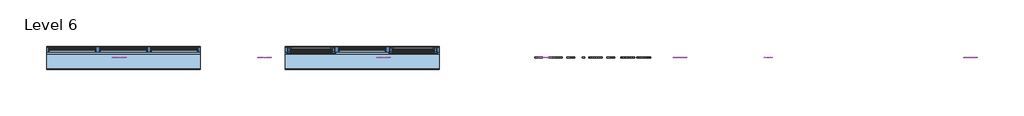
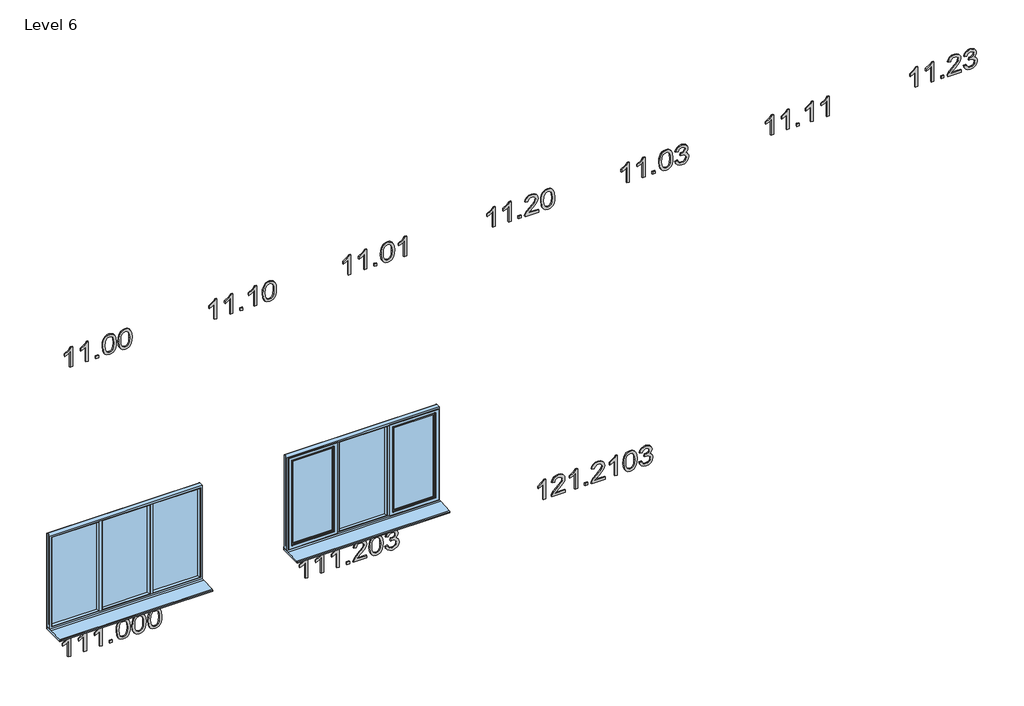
# One storey, incomplete: 10 proxies, 2 windows.
"""IFC4 building model written with IfcOpenShell, lengths in millimetres."""

from ifc_helpers import new_model, si_unit, frame, origin, place, context, project, spatial, polyline, outline, extrude, transform, mapped, element, save
from components import standard_2_dcb44ffc, standard_2_6f74c63c

model = new_model("IFC4")

# Units and contexts
model_context = context("Model", 3, world=origin())
ifc_project = project(units=[si_unit("LENGTHUNIT", "METRE", prefix="MILLI")], contexts=[model_context])

# Site, building, storey
site = spatial("IfcSite", under=ifc_project)
building = spatial("IfcBuilding", under=site)
storey = spatial("IfcBuildingStorey", under=building, Name="Level 6", Elevation=15000.0)

# Proxies
placement = place(None, origin())
element("IfcBuildingElementProxy", 1, Name="200mm Arial", ObjectType="200mm Arial", at=placement, inside=storey, context=model_context, shape_type="SweptSolid", body=[
    extrude(outline(polyline([(17968.1392597, -171054.3903213), (18169.05188, -171054.3903213), (18169.05188, -171070.5771291), (18155.8939673, -171079.4492165), (18142.3191217, -171092.9198289), (18118.8237249, -171129.7325539), (18095.0830735, -171129.7325539), (18107.7627396, -171103.2941012), (18124.7098368, -171079.5043988), (17968.1392597, -171079.5043988), (17968.1392597, -171054.3903213)])), frame((0.0, 24202.6264647, 0.0), z_axis=(0.0, 1.0, 0.0), x_axis=(0.0, 0.0, 1.0)), (0.0, 0.0, 1.0), 10.0),
    extrude(outline(polyline([(17968.1392597, -170900.5665964), (18169.05188, -170900.5665964), (18169.05188, -170916.7534042), (18155.8939673, -170925.6254916), (18142.3191217, -170939.096104), (18118.8237249, -170975.908829), (18095.0830735, -170975.908829), (18107.7627396, -170949.4703763), (18124.7098368, -170925.6806739), (17968.1392597, -170925.6806739), (17968.1392597, -170900.5665964)])), frame((0.0, 24202.6264647, 0.0), z_axis=(0.0, 1.0, 0.0), x_axis=(0.0, 0.0, 1.0)), (0.0, 0.0, 1.0), 10.0),
    extrude(outline(polyline([(-170803.2495459, 24202.6264647), (-170828.3636235, 24202.6264647), (-170828.3636235, 24212.6264647), (-170803.2495459, 24212.6264647), (-170803.2495459, 24202.6264647)])), frame((0.0, 0.0, 17968.1392597), z_axis=(0.0, 0.0, 1.0), x_axis=(1.0, 0.0, 0.0)), (0.0, 0.0, 1.0), 25.1140775),
    extrude(outline(polyline([(18066.9768891, -170762.4391699), (18018.1098974, -170757.4359748), (17999.2590108, -170751.1819809), (17984.1298637, -170742.4263894), (17969.7824659, -170722.6098126), (17965.0, -170696.5147164), (17967.7529836, -170676.2137616), (17976.0119344, -170659.7510423), (17989.8688229, -170647.0161939), (18009.4156196, -170637.8988518), (18035.0018123, -170632.4174101), (18066.9768891, -170630.5902629), (18114.1884118, -170635.1519996), (18143.913277, -170646.9242234), (18154.6738253, -170655.5939758), (18162.5771569, -170667.1822587), (18167.4331992, -170681.0391471), (18169.05188, -170696.5147164), (18166.3172905, -170716.7053066), (18158.113522, -170733.1312377), (18144.3118158, -170745.8844802), (18124.7834132, -170755.0570046), (18099.1359068, -170760.5936286), (18066.9768891, -170762.4391699)]), holes=[polyline([(18067.02594, -170737.3250924), (18106.0214315, -170734.2839346), (18130.4978469, -170725.1604611), (18140.5778136, -170712.5298459), (18143.9378025, -170696.809022), (18140.1240924, -170680.2052813), (18128.6829624, -170667.0841568), (18105.6412868, -170658.5492945), (18067.02594, -170655.7043404), (18027.5828587, -170658.6473964), (18004.70673, -170667.4765642), (17993.7622407, -170680.6222142), (17990.1140775, -170696.5147164), (17993.7499779, -170712.4072186), (18004.6576791, -170725.5528686), (18027.5215451, -170734.3820364), (18067.02594, -170737.3250924)])]), frame((0.0, 24202.6264647, 0.0), z_axis=(0.0, 1.0, 0.0), x_axis=(0.0, 0.0, 1.0)), (0.0, 0.0, 1.0), 10.0),
    extrude(outline(polyline([(18066.9768891, -170608.615445), (18018.1098974, -170603.6122499), (17999.2590108, -170597.358256), (17984.1298637, -170588.6026645), (17969.7824659, -170568.7860877), (17965.0, -170542.6909915), (17967.7529836, -170522.3900367), (17976.0119344, -170505.9273174), (17989.8688229, -170493.192469), (18009.4156196, -170484.0751269), (18035.0018123, -170478.5936852), (18066.9768891, -170476.7665379), (18114.1884118, -170481.3282747), (18143.913277, -170493.1004985), (18154.6738253, -170501.7702509), (18162.5771569, -170513.3585337), (18167.4331992, -170527.2154222), (18169.05188, -170542.6909915), (18166.3172905, -170562.8815817), (18158.113522, -170579.3075127), (18144.3118158, -170592.0607552), (18124.7834132, -170601.2332796), (18099.1359068, -170606.7699037), (18066.9768891, -170608.615445)]), holes=[polyline([(18067.02594, -170583.5013675), (18106.0214315, -170580.4602097), (18130.4978469, -170571.3367362), (18140.5778136, -170558.706121), (18143.9378025, -170542.9852971), (18140.1240924, -170526.3815564), (18128.6829624, -170513.2604319), (18105.6412868, -170504.7255696), (18067.02594, -170501.8806155), (18027.5828587, -170504.8236714), (18004.70673, -170513.6528393), (17993.7622407, -170526.7984893), (17990.1140775, -170542.6909915), (17993.7499779, -170558.5834937), (18004.6576791, -170571.7291436), (18027.5215451, -170580.5583115), (18067.02594, -170583.5013675)])]), frame((0.0, 24202.6264647, 0.0), z_axis=(0.0, 1.0, 0.0), x_axis=(0.0, 0.0, 1.0)), (0.0, 0.0, 1.0), 10.0),
])
element("IfcBuildingElementProxy", 2, Name="200mm Arial", ObjectType="200mm Arial", at=placement, inside=storey, context=model_context, shape_type="SweptSolid", body=[
    extrude(outline(polyline([(17968.1392597, -169654.3903213), (18169.05188, -169654.3903213), (18169.05188, -169670.5771291), (18155.8939673, -169679.4492165), (18142.3191217, -169692.9198289), (18118.8237249, -169729.7325539), (18095.0830735, -169729.7325539), (18107.7627396, -169703.2941012), (18124.7098368, -169679.5043988), (17968.1392597, -169679.5043988), (17968.1392597, -169654.3903213)])), frame((0.0, 24202.6264647, 0.0), z_axis=(0.0, 1.0, 0.0), x_axis=(0.0, 0.0, 1.0)), (0.0, 0.0, 1.0), 10.0),
    extrude(outline(polyline([(17968.1392597, -169500.5665964), (18169.05188, -169500.5665964), (18169.05188, -169516.7534042), (18155.8939673, -169525.6254916), (18142.3191217, -169539.096104), (18118.8237249, -169575.908829), (18095.0830735, -169575.908829), (18107.7627396, -169549.4703763), (18124.7098368, -169525.6806739), (17968.1392597, -169525.6806739), (17968.1392597, -169500.5665964)])), frame((0.0, 24202.6264647, 0.0), z_axis=(0.0, 1.0, 0.0), x_axis=(0.0, 0.0, 1.0)), (0.0, 0.0, 1.0), 10.0),
    extrude(outline(polyline([(-169403.2495459, 24202.6264647), (-169428.3636235, 24202.6264647), (-169428.3636235, 24212.6264647), (-169403.2495459, 24212.6264647), (-169403.2495459, 24202.6264647)])), frame((0.0, 0.0, 17968.1392597), z_axis=(0.0, 0.0, 1.0), x_axis=(1.0, 0.0, 0.0)), (0.0, 0.0, 1.0), 25.1140775),
    extrude(outline(polyline([(17968.1392597, -169268.2613792), (18169.05188, -169268.2613792), (18169.05188, -169284.448187), (18155.8939673, -169293.3202744), (18142.3191217, -169306.7908868), (18118.8237249, -169343.6036118), (18095.0830735, -169343.6036118), (18107.7627396, -169317.1651591), (18124.7098368, -169293.3754567), (17968.1392597, -169293.3754567), (17968.1392597, -169268.2613792)])), frame((0.0, 24202.6264647, 0.0), z_axis=(0.0, 1.0, 0.0), x_axis=(0.0, 0.0, 1.0)), (0.0, 0.0, 1.0), 10.0),
    extrude(outline(polyline([(18066.9768891, -169208.615445), (18018.1098974, -169203.6122499), (17999.2590108, -169197.358256), (17984.1298637, -169188.6026645), (17969.7824659, -169168.7860877), (17965.0, -169142.6909915), (17967.7529836, -169122.3900367), (17976.0119344, -169105.9273174), (17989.8688229, -169093.192469), (18009.4156196, -169084.0751269), (18035.0018123, -169078.5936852), (18066.9768891, -169076.7665379), (18114.1884118, -169081.3282747), (18143.913277, -169093.1004985), (18154.6738253, -169101.7702509), (18162.5771569, -169113.3585337), (18167.4331992, -169127.2154222), (18169.05188, -169142.6909915), (18166.3172905, -169162.8815817), (18158.113522, -169179.3075127), (18144.3118158, -169192.0607552), (18124.7834132, -169201.2332796), (18099.1359068, -169206.7699037), (18066.9768891, -169208.615445)]), holes=[polyline([(18067.02594, -169183.5013675), (18106.0214315, -169180.4602097), (18130.4978469, -169171.3367362), (18140.5778136, -169158.706121), (18143.9378025, -169142.9852971), (18140.1240924, -169126.3815564), (18128.6829624, -169113.2604319), (18105.6412868, -169104.7255696), (18067.02594, -169101.8806155), (18027.5828587, -169104.8236714), (18004.70673, -169113.6528393), (17993.7622407, -169126.7984893), (17990.1140775, -169142.6909915), (17993.7499779, -169158.5834937), (18004.6576791, -169171.7291436), (18027.5215451, -169180.5583115), (18067.02594, -169183.5013675)])]), frame((0.0, 24202.6264647, 0.0), z_axis=(0.0, 1.0, 0.0), x_axis=(0.0, 0.0, 1.0)), (0.0, 0.0, 1.0), 10.0),
])
element("IfcBuildingElementProxy", 3, Name="200mm Arial", ObjectType="200mm Arial", at=placement, inside=storey, context=model_context, shape_type="SweptSolid", body=[
    extrude(outline(polyline([(17968.1392597, -168354.3903213), (18169.05188, -168354.3903213), (18169.05188, -168370.5771291), (18155.8939673, -168379.4492165), (18142.3191217, -168392.9198289), (18118.8237249, -168429.7325539), (18095.0830735, -168429.7325539), (18107.7627396, -168403.2941012), (18124.7098368, -168379.5043988), (17968.1392597, -168379.5043988), (17968.1392597, -168354.3903213)])), frame((0.0, 24202.6264647, 0.0), z_axis=(0.0, 1.0, 0.0), x_axis=(0.0, 0.0, 1.0)), (0.0, 0.0, 1.0), 10.0),
    extrude(outline(polyline([(17968.1392597, -168200.5665964), (18169.05188, -168200.5665964), (18169.05188, -168216.7534042), (18155.8939673, -168225.6254916), (18142.3191217, -168239.096104), (18118.8237249, -168275.908829), (18095.0830735, -168275.908829), (18107.7627396, -168249.4703763), (18124.7098368, -168225.6806739), (17968.1392597, -168225.6806739), (17968.1392597, -168200.5665964)])), frame((0.0, 24202.6264647, 0.0), z_axis=(0.0, 1.0, 0.0), x_axis=(0.0, 0.0, 1.0)), (0.0, 0.0, 1.0), 10.0),
    extrude(outline(polyline([(-168103.2495459, 24202.6264647), (-168128.3636235, 24202.6264647), (-168128.3636235, 24212.6264647), (-168103.2495459, 24212.6264647), (-168103.2495459, 24202.6264647)])), frame((0.0, 0.0, 17968.1392597), z_axis=(0.0, 0.0, 1.0), x_axis=(1.0, 0.0, 0.0)), (0.0, 0.0, 1.0), 25.1140775),
    extrude(outline(polyline([(18066.9768891, -168062.4391699), (18018.1098974, -168057.4359748), (17999.2590108, -168051.1819809), (17984.1298637, -168042.4263894), (17969.7824659, -168022.6098126), (17965.0, -167996.5147164), (17967.7529836, -167976.2137616), (17976.0119344, -167959.7510423), (17989.8688229, -167947.0161939), (18009.4156196, -167937.8988518), (18035.0018123, -167932.4174101), (18066.9768891, -167930.5902629), (18114.1884118, -167935.1519996), (18143.913277, -167946.9242234), (18154.6738253, -167955.5939758), (18162.5771569, -167967.1822587), (18167.4331992, -167981.0391471), (18169.05188, -167996.5147164), (18166.3172905, -168016.7053066), (18158.113522, -168033.1312377), (18144.3118158, -168045.8844802), (18124.7834132, -168055.0570046), (18099.1359068, -168060.5936286), (18066.9768891, -168062.4391699)]), holes=[polyline([(18067.02594, -168037.3250924), (18106.0214315, -168034.2839346), (18130.4978469, -168025.1604611), (18140.5778136, -168012.5298459), (18143.9378025, -167996.809022), (18140.1240924, -167980.2052813), (18128.6829624, -167967.0841568), (18105.6412868, -167958.5492945), (18067.02594, -167955.7043404), (18027.5828587, -167958.6473964), (18004.70673, -167967.4765642), (17993.7622407, -167980.6222142), (17990.1140775, -167996.5147164), (17993.7499779, -168012.4072186), (18004.6576791, -168025.5528686), (18027.5215451, -168034.3820364), (18067.02594, -168037.3250924)])]), frame((0.0, 24202.6264647, 0.0), z_axis=(0.0, 1.0, 0.0), x_axis=(0.0, 0.0, 1.0)), (0.0, 0.0, 1.0), 10.0),
    extrude(outline(polyline([(17968.1392597, -167814.4376543), (18169.05188, -167814.4376543), (18169.05188, -167830.624462), (18155.8939673, -167839.4965495), (18142.3191217, -167852.9671619), (18118.8237249, -167889.7798869), (18095.0830735, -167889.7798869), (18107.7627396, -167863.3414341), (18124.7098368, -167839.5517318), (17968.1392597, -167839.5517318), (17968.1392597, -167814.4376543)])), frame((0.0, 24202.6264647, 0.0), z_axis=(0.0, 1.0, 0.0), x_axis=(0.0, 0.0, 1.0)), (0.0, 0.0, 1.0), 10.0),
])
element("IfcBuildingElementProxy", 4, Name="200mm Arial", ObjectType="200mm Arial", at=placement, inside=storey, context=model_context, shape_type="SweptSolid", body=[
    extrude(outline(polyline([(17968.1392597, -166954.3903213), (18169.05188, -166954.3903213), (18169.05188, -166970.5771291), (18155.8939673, -166979.4492165), (18142.3191217, -166992.9198289), (18118.8237249, -167029.7325539), (18095.0830735, -167029.7325539), (18107.7627396, -167003.2941012), (18124.7098368, -166979.5043988), (17968.1392597, -166979.5043988), (17968.1392597, -166954.3903213)])), frame((0.0, 24202.6264647, 0.0), z_axis=(0.0, 1.0, 0.0), x_axis=(0.0, 0.0, 1.0)), (0.0, 0.0, 1.0), 10.0),
    extrude(outline(polyline([(17968.1392597, -166800.5665964), (18169.05188, -166800.5665964), (18169.05188, -166816.7534042), (18155.8939673, -166825.6254916), (18142.3191217, -166839.096104), (18118.8237249, -166875.908829), (18095.0830735, -166875.908829), (18107.7627396, -166849.4703763), (18124.7098368, -166825.6806739), (17968.1392597, -166825.6806739), (17968.1392597, -166800.5665964)])), frame((0.0, 24202.6264647, 0.0), z_axis=(0.0, 1.0, 0.0), x_axis=(0.0, 0.0, 1.0)), (0.0, 0.0, 1.0), 10.0),
    extrude(outline(polyline([(-166703.2495459, 24202.6264647), (-166728.3636235, 24202.6264647), (-166728.3636235, 24212.6264647), (-166703.2495459, 24212.6264647), (-166703.2495459, 24202.6264647)])), frame((0.0, 0.0, 17968.1392597), z_axis=(0.0, 0.0, 1.0), x_axis=(1.0, 0.0, 0.0)), (0.0, 0.0, 1.0), 25.1140775),
    extrude(outline(polyline([(17993.2533372, -166533.7295226), (17993.2533372, -166632.3709482), (18006.0311052, -166621.0401827), (18030.1886895, -166592.1491834), (18064.5979188, -166556.1703243), (18089.221487, -166541.3324171), (18113.0357149, -166536.8687822), (18134.9369563, -166541.0074547), (18152.9631741, -166553.423472), (18165.0297035, -166572.9396119), (18169.05188, -166598.3786518), (18165.4343737, -166623.6337508), (18154.5818548, -166643.1866789), (18136.8376799, -166656.3507229), (18112.5452055, -166662.4391699), (18109.4059458, -166637.3250924), (18123.8391828, -166634.608897), (18134.765278, -166626.7546164), (18141.6446714, -166614.5838537), (18143.9378025, -166598.9182121), (18141.5894891, -166584.0005972), (18134.5445488, -166572.2099793), (18124.0905688, -166564.5396397), (18111.5151359, -166561.9828598), (18097.4865692, -166564.6929238), (18083.065595, -166572.8231159), (18041.2251494, -166616.1841404), (18012.1134208, -166647.6257883), (17985.4542389, -166662.8806283), (17968.1392597, -166665.5784296), (17968.1392597, -166533.7295226), (17993.2533372, -166533.7295226)])), frame((0.0, 24202.6264647, 0.0), z_axis=(0.0, 1.0, 0.0), x_axis=(0.0, 0.0, 1.0)), (0.0, 0.0, 1.0), 10.0),
    extrude(outline(polyline([(18066.9768891, -166508.615445), (18018.1098974, -166503.6122499), (17999.2590108, -166497.358256), (17984.1298637, -166488.6026645), (17969.7824659, -166468.7860877), (17965.0, -166442.6909915), (17967.7529836, -166422.3900367), (17976.0119344, -166405.9273174), (17989.8688229, -166393.192469), (18009.4156196, -166384.0751269), (18035.0018123, -166378.5936852), (18066.9768891, -166376.7665379), (18114.1884118, -166381.3282747), (18143.913277, -166393.1004985), (18154.6738253, -166401.7702509), (18162.5771569, -166413.3585337), (18167.4331992, -166427.2154222), (18169.05188, -166442.6909915), (18166.3172905, -166462.8815817), (18158.113522, -166479.3075127), (18144.3118158, -166492.0607552), (18124.7834132, -166501.2332796), (18099.1359068, -166506.7699037), (18066.9768891, -166508.615445)]), holes=[polyline([(18067.02594, -166483.5013675), (18106.0214315, -166480.4602097), (18130.4978469, -166471.3367362), (18140.5778136, -166458.706121), (18143.9378025, -166442.9852971), (18140.1240924, -166426.3815564), (18128.6829624, -166413.2604319), (18105.6412868, -166404.7255696), (18067.02594, -166401.8806155), (18027.5828587, -166404.8236714), (18004.70673, -166413.6528393), (17993.7622407, -166426.7984893), (17990.1140775, -166442.6909915), (17993.7499779, -166458.5834937), (18004.6576791, -166471.7291436), (18027.5215451, -166480.5583115), (18067.02594, -166483.5013675)])]), frame((0.0, 24202.6264647, 0.0), z_axis=(0.0, 1.0, 0.0), x_axis=(0.0, 0.0, 1.0)), (0.0, 0.0, 1.0), 10.0),
])
element("IfcBuildingElementProxy", 5, Name="200mm Arial", ObjectType="200mm Arial", at=placement, inside=storey, context=model_context, shape_type="SweptSolid", body=[
    extrude(outline(polyline([(17968.1392597, -165654.3903213), (18169.05188, -165654.3903213), (18169.05188, -165670.5771291), (18155.8939673, -165679.4492165), (18142.3191217, -165692.9198289), (18118.8237249, -165729.7325539), (18095.0830735, -165729.7325539), (18107.7627396, -165703.2941012), (18124.7098368, -165679.5043988), (17968.1392597, -165679.5043988), (17968.1392597, -165654.3903213)])), frame((0.0, 24202.6264647, 0.0), z_axis=(0.0, 1.0, 0.0), x_axis=(0.0, 0.0, 1.0)), (0.0, 0.0, 1.0), 10.0),
    extrude(outline(polyline([(17968.1392597, -165500.5665964), (18169.05188, -165500.5665964), (18169.05188, -165516.7534042), (18155.8939673, -165525.6254916), (18142.3191217, -165539.096104), (18118.8237249, -165575.908829), (18095.0830735, -165575.908829), (18107.7627396, -165549.4703763), (18124.7098368, -165525.6806739), (17968.1392597, -165525.6806739), (17968.1392597, -165500.5665964)])), frame((0.0, 24202.6264647, 0.0), z_axis=(0.0, 1.0, 0.0), x_axis=(0.0, 0.0, 1.0)), (0.0, 0.0, 1.0), 10.0),
    extrude(outline(polyline([(-165403.2495459, 24202.6264647), (-165428.3636235, 24202.6264647), (-165428.3636235, 24212.6264647), (-165403.2495459, 24212.6264647), (-165403.2495459, 24202.6264647)])), frame((0.0, 0.0, 17968.1392597), z_axis=(0.0, 0.0, 1.0), x_axis=(1.0, 0.0, 0.0)), (0.0, 0.0, 1.0), 25.1140775),
    extrude(outline(polyline([(18066.9768891, -165362.4391699), (18018.1098974, -165357.4359748), (17999.2590108, -165351.1819809), (17984.1298637, -165342.4263894), (17969.7824659, -165322.6098126), (17965.0, -165296.5147164), (17967.7529836, -165276.2137616), (17976.0119344, -165259.7510423), (17989.8688229, -165247.0161939), (18009.4156196, -165237.8988518), (18035.0018123, -165232.4174101), (18066.9768891, -165230.5902629), (18114.1884118, -165235.1519996), (18143.913277, -165246.9242234), (18154.6738253, -165255.5939758), (18162.5771569, -165267.1822587), (18167.4331992, -165281.0391471), (18169.05188, -165296.5147164), (18166.3172905, -165316.7053066), (18158.113522, -165333.1312377), (18144.3118158, -165345.8844802), (18124.7834132, -165355.0570046), (18099.1359068, -165360.5936286), (18066.9768891, -165362.4391699)]), holes=[polyline([(18067.02594, -165337.3250924), (18106.0214315, -165334.2839346), (18130.4978469, -165325.1604611), (18140.5778136, -165312.5298459), (18143.9378025, -165296.809022), (18140.1240924, -165280.2052813), (18128.6829624, -165267.0841568), (18105.6412868, -165258.5492945), (18067.02594, -165255.7043404), (18027.5828587, -165258.6473964), (18004.70673, -165267.4765642), (17993.7622407, -165280.6222142), (17990.1140775, -165296.5147164), (17993.7499779, -165312.4072186), (18004.6576791, -165325.5528686), (18027.5215451, -165334.3820364), (18067.02594, -165337.3250924)])]), frame((0.0, 24202.6264647, 0.0), z_axis=(0.0, 1.0, 0.0), x_axis=(0.0, 0.0, 1.0)), (0.0, 0.0, 1.0), 10.0),
    extrude(outline(polyline([(18021.5066745, -165208.615445), (17998.8083554, -165202.3982393), (17980.7453494, -165188.6517154), (17968.9363373, -165168.8841895), (17965.0, -165144.6039779), (17969.6107877, -165117.7608549), (17983.4431507, -165095.9945036), (18003.8973896, -165081.5735294), (18028.373805, -165076.7665379), (18046.3509719, -165079.1700336), (18061.0417262, -165086.3805208), (18071.8574569, -165098.0301173), (18078.2095526, -165113.7509412), (18085.456828, -165101.7825136), (18094.8378188, -165093.1495495), (18105.8497532, -165087.9256251), (18117.9898591, -165086.184317), (18131.0190131, -165088.0175956), (18143.3246658, -165093.5174315), (18154.0055064, -165102.4814894), (18162.1602239, -165114.7074344), (18167.328966, -165129.2081164), (18169.05188, -165144.9963853), (18165.557001, -165166.9221522), (18155.0723642, -165184.9238445), (18138.2356315, -165198.0817572), (18115.6844652, -165205.4761853), (18112.5452055, -165180.3621078), (18126.2794667, -165175.9107356), (18136.0896532, -165168.0503237), (18141.9757651, -165157.283644), (18143.9378025, -165144.1134685), (18141.9941592, -165130.9678186), (18136.1632296, -165120.470919), (18127.3647186, -165113.5915257), (18116.5183311, -165111.2983946), (18103.4953085, -165114.4621797), (18094.3473095, -165123.9535352), (18088.9394442, -165137.4057535), (18087.1368224, -165152.4521271), (18087.431128, -165156.4743036), (18062.3170505, -165159.2702067), (18065.0639027, -165141.6609219), (18062.4948601, -165125.8665216), (18054.7877323, -165113.1132791), (18043.1565299, -165104.6887814), (18028.8152634, -165101.8806155), (18013.7075762, -165104.7133068), (18001.2486393, -165113.2113809), (17992.897718, -165126.5041837), (17990.1140775, -165143.7210611), (17992.1374285, -165158.3934213), (17998.2074814, -165169.644479), (18008.8637966, -165177.8789043), (18024.6459342, -165183.5013675), (18021.5066745, -165208.615445)])), frame((0.0, 24202.6264647, 0.0), z_axis=(0.0, 1.0, 0.0), x_axis=(0.0, 0.0, 1.0)), (0.0, 0.0, 1.0), 10.0),
])
element("IfcBuildingElementProxy", 6, Name="200mm Arial", ObjectType="200mm Arial", at=placement, inside=storey, context=model_context, shape_type="SweptSolid", body=[
    extrude(outline(polyline([(17968.1392597, -164254.3903213), (18169.05188, -164254.3903213), (18169.05188, -164270.5771291), (18155.8939673, -164279.4492165), (18142.3191217, -164292.9198289), (18118.8237249, -164329.7325539), (18095.0830735, -164329.7325539), (18107.7627396, -164303.2941012), (18124.7098368, -164279.5043988), (17968.1392597, -164279.5043988), (17968.1392597, -164254.3903213)])), frame((0.0, 24202.6264647, 0.0), z_axis=(0.0, 1.0, 0.0), x_axis=(0.0, 0.0, 1.0)), (0.0, 0.0, 1.0), 10.0),
    extrude(outline(polyline([(17968.1392597, -164100.5665964), (18169.05188, -164100.5665964), (18169.05188, -164116.7534042), (18155.8939673, -164125.6254916), (18142.3191217, -164139.096104), (18118.8237249, -164175.908829), (18095.0830735, -164175.908829), (18107.7627396, -164149.4703763), (18124.7098368, -164125.6806739), (17968.1392597, -164125.6806739), (17968.1392597, -164100.5665964)])), frame((0.0, 24202.6264647, 0.0), z_axis=(0.0, 1.0, 0.0), x_axis=(0.0, 0.0, 1.0)), (0.0, 0.0, 1.0), 10.0),
    extrude(outline(polyline([(-164003.2495459, 24202.6264647), (-164028.3636235, 24202.6264647), (-164028.3636235, 24212.6264647), (-164003.2495459, 24212.6264647), (-164003.2495459, 24202.6264647)])), frame((0.0, 0.0, 17968.1392597), z_axis=(0.0, 0.0, 1.0), x_axis=(1.0, 0.0, 0.0)), (0.0, 0.0, 1.0), 25.1140775),
    extrude(outline(polyline([(17968.1392597, -163868.2613792), (18169.05188, -163868.2613792), (18169.05188, -163884.448187), (18155.8939673, -163893.3202744), (18142.3191217, -163906.7908868), (18118.8237249, -163943.6036118), (18095.0830735, -163943.6036118), (18107.7627396, -163917.1651591), (18124.7098368, -163893.3754567), (17968.1392597, -163893.3754567), (17968.1392597, -163868.2613792)])), frame((0.0, 24202.6264647, 0.0), z_axis=(0.0, 1.0, 0.0), x_axis=(0.0, 0.0, 1.0)), (0.0, 0.0, 1.0), 10.0),
    extrude(outline(polyline([(17968.1392597, -163714.4376543), (18169.05188, -163714.4376543), (18169.05188, -163730.624462), (18155.8939673, -163739.4965495), (18142.3191217, -163752.9671619), (18118.8237249, -163789.7798869), (18095.0830735, -163789.7798869), (18107.7627396, -163763.3414341), (18124.7098368, -163739.5517318), (17968.1392597, -163739.5517318), (17968.1392597, -163714.4376543)])), frame((0.0, 24202.6264647, 0.0), z_axis=(0.0, 1.0, 0.0), x_axis=(0.0, 0.0, 1.0)), (0.0, 0.0, 1.0), 10.0),
])
element("IfcBuildingElementProxy", 7, Name="200mm Arial", ObjectType="200mm Arial", at=placement, inside=storey, context=model_context, shape_type="SweptSolid", body=[
    extrude(outline(polyline([(17968.1392597, -162854.3903213), (18169.05188, -162854.3903213), (18169.05188, -162870.5771291), (18155.8939673, -162879.4492165), (18142.3191217, -162892.9198289), (18118.8237249, -162929.7325539), (18095.0830735, -162929.7325539), (18107.7627396, -162903.2941012), (18124.7098368, -162879.5043988), (17968.1392597, -162879.5043988), (17968.1392597, -162854.3903213)])), frame((0.0, 24202.6264647, 0.0), z_axis=(0.0, 1.0, 0.0), x_axis=(0.0, 0.0, 1.0)), (0.0, 0.0, 1.0), 10.0),
    extrude(outline(polyline([(17968.1392597, -162700.5665964), (18169.05188, -162700.5665964), (18169.05188, -162716.7534042), (18155.8939673, -162725.6254916), (18142.3191217, -162739.096104), (18118.8237249, -162775.908829), (18095.0830735, -162775.908829), (18107.7627396, -162749.4703763), (18124.7098368, -162725.6806739), (17968.1392597, -162725.6806739), (17968.1392597, -162700.5665964)])), frame((0.0, 24202.6264647, 0.0), z_axis=(0.0, 1.0, 0.0), x_axis=(0.0, 0.0, 1.0)), (0.0, 0.0, 1.0), 10.0),
    extrude(outline(polyline([(-162603.2495459, 24202.6264647), (-162628.3636235, 24202.6264647), (-162628.3636235, 24212.6264647), (-162603.2495459, 24212.6264647), (-162603.2495459, 24202.6264647)])), frame((0.0, 0.0, 17968.1392597), z_axis=(0.0, 0.0, 1.0), x_axis=(1.0, 0.0, 0.0)), (0.0, 0.0, 1.0), 25.1140775),
    extrude(outline(polyline([(17993.2533372, -162433.7295226), (17993.2533372, -162532.3709482), (18006.0311052, -162521.0401827), (18030.1886895, -162492.1491834), (18064.5979188, -162456.1703243), (18089.221487, -162441.3324171), (18113.0357149, -162436.8687822), (18134.9369563, -162441.0074547), (18152.9631741, -162453.423472), (18165.0297035, -162472.9396119), (18169.05188, -162498.3786518), (18165.4343737, -162523.6337508), (18154.5818548, -162543.1866789), (18136.8376799, -162556.3507229), (18112.5452055, -162562.4391699), (18109.4059458, -162537.3250924), (18123.8391828, -162534.608897), (18134.765278, -162526.7546164), (18141.6446714, -162514.5838537), (18143.9378025, -162498.9182121), (18141.5894891, -162484.0005972), (18134.5445488, -162472.2099793), (18124.0905688, -162464.5396397), (18111.5151359, -162461.9828598), (18097.4865692, -162464.6929238), (18083.065595, -162472.8231159), (18041.2251494, -162516.1841404), (18012.1134208, -162547.6257883), (17985.4542389, -162562.8806283), (17968.1392597, -162565.5784296), (17968.1392597, -162433.7295226), (17993.2533372, -162433.7295226)])), frame((0.0, 24202.6264647, 0.0), z_axis=(0.0, 1.0, 0.0), x_axis=(0.0, 0.0, 1.0)), (0.0, 0.0, 1.0), 10.0),
    extrude(outline(polyline([(18021.5066745, -162408.615445), (17998.8083554, -162402.3982393), (17980.7453494, -162388.6517154), (17968.9363373, -162368.8841895), (17965.0, -162344.6039779), (17969.6107877, -162317.7608549), (17983.4431507, -162295.9945036), (18003.8973896, -162281.5735294), (18028.373805, -162276.7665379), (18046.3509719, -162279.1700336), (18061.0417262, -162286.3805208), (18071.8574569, -162298.0301173), (18078.2095526, -162313.7509412), (18085.456828, -162301.7825136), (18094.8378188, -162293.1495495), (18105.8497532, -162287.9256251), (18117.9898591, -162286.184317), (18131.0190131, -162288.0175956), (18143.3246658, -162293.5174315), (18154.0055064, -162302.4814894), (18162.1602239, -162314.7074344), (18167.328966, -162329.2081164), (18169.05188, -162344.9963853), (18165.557001, -162366.9221522), (18155.0723642, -162384.9238445), (18138.2356315, -162398.0817572), (18115.6844652, -162405.4761853), (18112.5452055, -162380.3621078), (18126.2794667, -162375.9107356), (18136.0896532, -162368.0503237), (18141.9757651, -162357.283644), (18143.9378025, -162344.1134685), (18141.9941592, -162330.9678186), (18136.1632296, -162320.470919), (18127.3647186, -162313.5915257), (18116.5183311, -162311.2983946), (18103.4953085, -162314.4621797), (18094.3473095, -162323.9535352), (18088.9394442, -162337.4057535), (18087.1368224, -162352.4521271), (18087.431128, -162356.4743036), (18062.3170505, -162359.2702067), (18065.0639027, -162341.6609219), (18062.4948601, -162325.8665216), (18054.7877323, -162313.1132791), (18043.1565299, -162304.6887814), (18028.8152634, -162301.8806155), (18013.7075762, -162304.7133068), (18001.2486393, -162313.2113809), (17992.897718, -162326.5041837), (17990.1140775, -162343.7210611), (17992.1374285, -162358.3934213), (17998.2074814, -162369.644479), (18008.8637966, -162377.8789043), (18024.6459342, -162383.5013675), (18021.5066745, -162408.615445)])), frame((0.0, 24202.6264647, 0.0), z_axis=(0.0, 1.0, 0.0), x_axis=(0.0, 0.0, 1.0)), (0.0, 0.0, 1.0), 10.0),
])
element("IfcBuildingElementProxy", 8, Name="200mm Arial", ObjectType="200mm Arial", at=placement, inside=storey, context=model_context, shape_type="SweptSolid", body=[
    extrude(outline(polyline([(15003.1392597, -171073.3903213), (15204.05188, -171073.3903213), (15204.05188, -171089.5771291), (15190.8939673, -171098.4492165), (15177.3191217, -171111.9198289), (15153.8237249, -171148.7325539), (15130.0830735, -171148.7325539), (15142.7627396, -171122.2941012), (15159.7098368, -171098.5043988), (15003.1392597, -171098.5043988), (15003.1392597, -171073.3903213)])), frame((0.0, 24202.6264647, 0.0), z_axis=(0.0, 1.0, 0.0), x_axis=(0.0, 0.0, 1.0)), (0.0, 0.0, 1.0), 10.0),
    extrude(outline(polyline([(15003.1392597, -170919.5665964), (15204.05188, -170919.5665964), (15204.05188, -170935.7534042), (15190.8939673, -170944.6254916), (15177.3191217, -170958.096104), (15153.8237249, -170994.908829), (15130.0830735, -170994.908829), (15142.7627396, -170968.4703763), (15159.7098368, -170944.6806739), (15003.1392597, -170944.6806739), (15003.1392597, -170919.5665964)])), frame((0.0, 24202.6264647, 0.0), z_axis=(0.0, 1.0, 0.0), x_axis=(0.0, 0.0, 1.0)), (0.0, 0.0, 1.0), 10.0),
    extrude(outline(polyline([(15003.1392597, -170765.7428715), (15204.05188, -170765.7428715), (15204.05188, -170781.9296793), (15190.8939673, -170790.8017667), (15177.3191217, -170804.2723791), (15153.8237249, -170841.0851041), (15130.0830735, -170841.0851041), (15142.7627396, -170814.6466514), (15159.7098368, -170790.856949), (15003.1392597, -170790.856949), (15003.1392597, -170765.7428715)])), frame((0.0, 24202.6264647, 0.0), z_axis=(0.0, 1.0, 0.0), x_axis=(0.0, 0.0, 1.0)), (0.0, 0.0, 1.0), 10.0),
    extrude(outline(polyline([(-170668.425821, 24202.6264647), (-170693.5398986, 24202.6264647), (-170693.5398986, 24212.6264647), (-170668.425821, 24212.6264647), (-170668.425821, 24202.6264647)])), frame((0.0, 0.0, 15003.1392597), z_axis=(0.0, 0.0, 1.0), x_axis=(1.0, 0.0, 0.0)), (0.0, 0.0, 1.0), 25.1140775),
    extrude(outline(polyline([(15101.9768891, -170627.615445), (15053.1098974, -170622.6122499), (15034.2590108, -170616.358256), (15019.1298637, -170607.6026645), (15004.7824659, -170587.7860877), (15000.0, -170561.6909915), (15002.7529836, -170541.3900367), (15011.0119344, -170524.9273174), (15024.8688229, -170512.192469), (15044.4156196, -170503.0751269), (15070.0018123, -170497.5936852), (15101.9768891, -170495.7665379), (15149.1884118, -170500.3282747), (15178.913277, -170512.1004985), (15189.6738253, -170520.7702509), (15197.5771569, -170532.3585337), (15202.4331992, -170546.2154222), (15204.05188, -170561.6909915), (15201.3172905, -170581.8815817), (15193.113522, -170598.3075127), (15179.3118158, -170611.0607552), (15159.7834132, -170620.2332796), (15134.1359068, -170625.7699037), (15101.9768891, -170627.615445)]), holes=[polyline([(15102.02594, -170602.5013675), (15141.0214315, -170599.4602097), (15165.4978469, -170590.3367362), (15175.5778136, -170577.706121), (15178.9378025, -170561.9852971), (15175.1240924, -170545.3815564), (15163.6829624, -170532.2604319), (15140.6412868, -170523.7255696), (15102.02594, -170520.8806155), (15062.5828587, -170523.8236714), (15039.70673, -170532.6528393), (15028.7622407, -170545.7984893), (15025.1140775, -170561.6909915), (15028.7499779, -170577.5834937), (15039.6576791, -170590.7291436), (15062.5215451, -170599.5583115), (15102.02594, -170602.5013675)])]), frame((0.0, 24202.6264647, 0.0), z_axis=(0.0, 1.0, 0.0), x_axis=(0.0, 0.0, 1.0)), (0.0, 0.0, 1.0), 10.0),
    extrude(outline(polyline([(15101.9768891, -170473.7917201), (15053.1098974, -170468.788525), (15034.2590108, -170462.534531), (15019.1298637, -170453.7789396), (15004.7824659, -170433.9623628), (15000.0, -170407.8672666), (15002.7529836, -170387.5663118), (15011.0119344, -170371.1035925), (15024.8688229, -170358.3687441), (15044.4156196, -170349.251402), (15070.0018123, -170343.7699603), (15101.9768891, -170341.942813), (15149.1884118, -170346.5045498), (15178.913277, -170358.2767736), (15189.6738253, -170366.946526), (15197.5771569, -170378.5348088), (15202.4331992, -170392.3916973), (15204.05188, -170407.8672666), (15201.3172905, -170428.0578567), (15193.113522, -170444.4837878), (15179.3118158, -170457.2370303), (15159.7834132, -170466.4095547), (15134.1359068, -170471.9461788), (15101.9768891, -170473.7917201)]), holes=[polyline([(15102.02594, -170448.6776426), (15141.0214315, -170445.6364847), (15165.4978469, -170436.5130113), (15175.5778136, -170423.8823961), (15178.9378025, -170408.1615722), (15175.1240924, -170391.5578314), (15163.6829624, -170378.436707), (15140.6412868, -170369.9018447), (15102.02594, -170367.0568906), (15062.5828587, -170369.9999465), (15039.70673, -170378.8291144), (15028.7622407, -170391.9747644), (15025.1140775, -170407.8672666), (15028.7499779, -170423.7597688), (15039.6576791, -170436.9054187), (15062.5215451, -170445.7345866), (15102.02594, -170448.6776426)])]), frame((0.0, 24202.6264647, 0.0), z_axis=(0.0, 1.0, 0.0), x_axis=(0.0, 0.0, 1.0)), (0.0, 0.0, 1.0), 10.0),
    extrude(outline(polyline([(15101.9768891, -170319.9679952), (15053.1098974, -170314.9648001), (15034.2590108, -170308.7108061), (15019.1298637, -170299.9552146), (15004.7824659, -170280.1386378), (15000.0, -170254.0435416), (15002.7529836, -170233.7425869), (15011.0119344, -170217.2798676), (15024.8688229, -170204.5450192), (15044.4156196, -170195.4276771), (15070.0018123, -170189.9462354), (15101.9768891, -170188.1190881), (15149.1884118, -170192.6808249), (15178.913277, -170204.4530487), (15189.6738253, -170213.1228011), (15197.5771569, -170224.7110839), (15202.4331992, -170238.5679724), (15204.05188, -170254.0435416), (15201.3172905, -170274.2341318), (15193.113522, -170290.6600629), (15179.3118158, -170303.4133054), (15159.7834132, -170312.5858298), (15134.1359068, -170318.1224538), (15101.9768891, -170319.9679952)]), holes=[polyline([(15102.02594, -170294.8539176), (15141.0214315, -170291.8127598), (15165.4978469, -170282.6892863), (15175.5778136, -170270.0586712), (15178.9378025, -170254.3378472), (15175.1240924, -170237.7341065), (15163.6829624, -170224.612982), (15140.6412868, -170216.0781197), (15102.02594, -170213.2331657), (15062.5828587, -170216.1762216), (15039.70673, -170225.0053895), (15028.7622407, -170238.1510395), (15025.1140775, -170254.0435416), (15028.7499779, -170269.9360438), (15039.6576791, -170283.0816938), (15062.5215451, -170291.9108617), (15102.02594, -170294.8539176)])]), frame((0.0, 24202.6264647, 0.0), z_axis=(0.0, 1.0, 0.0), x_axis=(0.0, 0.0, 1.0)), (0.0, 0.0, 1.0), 10.0),
])
element("IfcBuildingElementProxy", 9, Name="200mm Arial", ObjectType="200mm Arial", at=placement, inside=storey, context=model_context, shape_type="SweptSolid", body=[
    extrude(outline(polyline([(15003.1392597, -168773.3903213), (15204.05188, -168773.3903213), (15204.05188, -168789.5771291), (15190.8939673, -168798.4492165), (15177.3191217, -168811.9198289), (15153.8237249, -168848.7325539), (15130.0830735, -168848.7325539), (15142.7627396, -168822.2941012), (15159.7098368, -168798.5043988), (15003.1392597, -168798.5043988), (15003.1392597, -168773.3903213)])), frame((0.0, 24202.6264647, 0.0), z_axis=(0.0, 1.0, 0.0), x_axis=(0.0, 0.0, 1.0)), (0.0, 0.0, 1.0), 10.0),
    extrude(outline(polyline([(15003.1392597, -168619.5665964), (15204.05188, -168619.5665964), (15204.05188, -168635.7534042), (15190.8939673, -168644.6254916), (15177.3191217, -168658.096104), (15153.8237249, -168694.908829), (15130.0830735, -168694.908829), (15142.7627396, -168668.4703763), (15159.7098368, -168644.6806739), (15003.1392597, -168644.6806739), (15003.1392597, -168619.5665964)])), frame((0.0, 24202.6264647, 0.0), z_axis=(0.0, 1.0, 0.0), x_axis=(0.0, 0.0, 1.0)), (0.0, 0.0, 1.0), 10.0),
    extrude(outline(polyline([(15003.1392597, -168465.7428715), (15204.05188, -168465.7428715), (15204.05188, -168481.9296793), (15190.8939673, -168490.8017667), (15177.3191217, -168504.2723791), (15153.8237249, -168541.0851041), (15130.0830735, -168541.0851041), (15142.7627396, -168514.6466514), (15159.7098368, -168490.856949), (15003.1392597, -168490.856949), (15003.1392597, -168465.7428715)])), frame((0.0, 24202.6264647, 0.0), z_axis=(0.0, 1.0, 0.0), x_axis=(0.0, 0.0, 1.0)), (0.0, 0.0, 1.0), 10.0),
    extrude(outline(polyline([(-168368.425821, 24202.6264647), (-168393.5398986, 24202.6264647), (-168393.5398986, 24212.6264647), (-168368.425821, 24212.6264647), (-168368.425821, 24202.6264647)])), frame((0.0, 0.0, 15003.1392597), z_axis=(0.0, 0.0, 1.0), x_axis=(1.0, 0.0, 0.0)), (0.0, 0.0, 1.0), 25.1140775),
    extrude(outline(polyline([(15028.2533372, -168198.9057976), (15028.2533372, -168297.5472233), (15041.0311052, -168286.2164578), (15065.1886895, -168257.3254585), (15099.5979188, -168221.3465993), (15124.221487, -168206.5086922), (15148.0357149, -168202.0450573), (15169.9369563, -168206.1837298), (15187.9631741, -168218.5997471), (15200.0297035, -168238.115887), (15204.05188, -168263.5549269), (15200.4343737, -168288.8100259), (15189.5818548, -168308.3629539), (15171.8376799, -168321.526998), (15147.5452055, -168327.615445), (15144.4059458, -168302.5013675), (15158.8391828, -168299.7851721), (15169.765278, -168291.9308915), (15176.6446714, -168279.7601288), (15178.9378025, -168264.0944872), (15176.5894891, -168249.1768723), (15169.5445488, -168237.3862543), (15159.0905688, -168229.7159147), (15146.5151359, -168227.1591349), (15132.4865692, -168229.8691989), (15118.065595, -168237.999391), (15076.2251494, -168281.3604155), (15047.1134208, -168312.8020633), (15020.4542389, -168328.0569034), (15003.1392597, -168330.7547047), (15003.1392597, -168198.9057976), (15028.2533372, -168198.9057976)])), frame((0.0, 24202.6264647, 0.0), z_axis=(0.0, 1.0, 0.0), x_axis=(0.0, 0.0, 1.0)), (0.0, 0.0, 1.0), 10.0),
    extrude(outline(polyline([(15101.9768891, -168173.7917201), (15053.1098974, -168168.788525), (15034.2590108, -168162.534531), (15019.1298637, -168153.7789396), (15004.7824659, -168133.9623628), (15000.0, -168107.8672666), (15002.7529836, -168087.5663118), (15011.0119344, -168071.1035925), (15024.8688229, -168058.3687441), (15044.4156196, -168049.251402), (15070.0018123, -168043.7699603), (15101.9768891, -168041.942813), (15149.1884118, -168046.5045498), (15178.913277, -168058.2767736), (15189.6738253, -168066.946526), (15197.5771569, -168078.5348088), (15202.4331992, -168092.3916973), (15204.05188, -168107.8672666), (15201.3172905, -168128.0578567), (15193.113522, -168144.4837878), (15179.3118158, -168157.2370303), (15159.7834132, -168166.4095547), (15134.1359068, -168171.9461788), (15101.9768891, -168173.7917201)]), holes=[polyline([(15102.02594, -168148.6776426), (15141.0214315, -168145.6364847), (15165.4978469, -168136.5130113), (15175.5778136, -168123.8823961), (15178.9378025, -168108.1615722), (15175.1240924, -168091.5578314), (15163.6829624, -168078.436707), (15140.6412868, -168069.9018447), (15102.02594, -168067.0568906), (15062.5828587, -168069.9999465), (15039.70673, -168078.8291144), (15028.7622407, -168091.9747644), (15025.1140775, -168107.8672666), (15028.7499779, -168123.7597688), (15039.6576791, -168136.9054187), (15062.5215451, -168145.7345866), (15102.02594, -168148.6776426)])]), frame((0.0, 24202.6264647, 0.0), z_axis=(0.0, 1.0, 0.0), x_axis=(0.0, 0.0, 1.0)), (0.0, 0.0, 1.0), 10.0),
    extrude(outline(polyline([(15056.5066745, -168019.9679952), (15033.8083554, -168013.7507895), (15015.7453494, -168000.0042656), (15003.9363373, -167980.2367397), (15000.0, -167955.956528), (15004.6107877, -167929.1134051), (15018.4431507, -167907.3470537), (15038.8973896, -167892.9260795), (15063.373805, -167888.1190881), (15081.3509719, -167890.5225838), (15096.0417262, -167897.7330709), (15106.8574569, -167909.3826674), (15113.2095526, -167925.1034914), (15120.456828, -167913.1350638), (15129.8378188, -167904.5020996), (15140.8497532, -167899.2781753), (15152.9898591, -167897.5368672), (15166.0190131, -167899.3701458), (15178.3246658, -167904.8699816), (15189.0055064, -167913.8340396), (15197.1602239, -167926.0599845), (15202.328966, -167940.5606665), (15204.05188, -167956.3489355), (15200.557001, -167978.2747024), (15190.0723642, -167996.2763947), (15173.2356315, -168009.4343074), (15150.6844652, -168016.8287355), (15147.5452055, -167991.714658), (15161.2794667, -167987.2632858), (15171.0896532, -167979.4028738), (15176.9757651, -167968.6361941), (15178.9378025, -167955.4660187), (15176.9941592, -167942.3203687), (15171.1632296, -167931.8234691), (15162.3647186, -167924.9440758), (15151.5183311, -167922.6509447), (15138.4953085, -167925.8147299), (15129.3473095, -167935.3060854), (15123.9394442, -167948.7583037), (15122.1368224, -167963.8046773), (15122.431128, -167967.8268537), (15097.3170505, -167970.6227569), (15100.0639027, -167953.0134721), (15097.4948601, -167937.2190717), (15089.7877323, -167924.4658292), (15078.1565299, -167916.0413315), (15063.8152634, -167913.2331657), (15048.7075762, -167916.065857), (15036.2486393, -167924.5639311), (15027.897718, -167937.8567339), (15025.1140775, -167955.0736112), (15027.1374285, -167969.7459715), (15033.2074814, -167980.9970292), (15043.8637966, -167989.2314545), (15059.6459342, -167994.8539176), (15056.5066745, -168019.9679952)])), frame((0.0, 24202.6264647, 0.0), z_axis=(0.0, 1.0, 0.0), x_axis=(0.0, 0.0, 1.0)), (0.0, 0.0, 1.0), 10.0),
])
element("IfcBuildingElementProxy", 10, Name="200mm Arial", ObjectType="200mm Arial", at=placement, inside=storey, context=model_context, shape_type="SweptSolid", body=[
    extrude(outline(polyline([(15003.1392597, -166463.3903213), (15204.05188, -166463.3903213), (15204.05188, -166479.5771291), (15190.8939673, -166488.4492165), (15177.3191217, -166501.9198289), (15153.8237249, -166538.7325539), (15130.0830735, -166538.7325539), (15142.7627396, -166512.2941012), (15159.7098368, -166488.5043988), (15003.1392597, -166488.5043988), (15003.1392597, -166463.3903213)])), frame((0.0, 24202.6264647, 0.0), z_axis=(0.0, 1.0, 0.0), x_axis=(0.0, 0.0, 1.0)), (0.0, 0.0, 1.0), 10.0),
    extrude(outline(polyline([(15028.2533372, -166275.0347398), (15028.2533372, -166373.6761654), (15041.0311052, -166362.3454), (15065.1886895, -166333.4544006), (15099.5979188, -166297.4755415), (15124.221487, -166282.6376343), (15148.0357149, -166278.1739995), (15169.9369563, -166282.3126719), (15187.9631741, -166294.7286893), (15200.0297035, -166314.2448291), (15204.05188, -166339.6838691), (15200.4343737, -166364.938968), (15189.5818548, -166384.4918961), (15171.8376799, -166397.6559401), (15147.5452055, -166403.7443872), (15144.4059458, -166378.6303096), (15158.8391828, -166375.9141142), (15169.765278, -166368.0598336), (15176.6446714, -166355.8890709), (15178.9378025, -166340.2234293), (15176.5894891, -166325.3058144), (15169.5445488, -166313.5151965), (15159.0905688, -166305.8448569), (15146.5151359, -166303.288077), (15132.4865692, -166305.998141), (15118.065595, -166314.1283331), (15076.2251494, -166357.4893576), (15047.1134208, -166388.9310055), (15020.4542389, -166404.1858455), (15003.1392597, -166406.8836468), (15003.1392597, -166275.0347398), (15028.2533372, -166275.0347398)])), frame((0.0, 24202.6264647, 0.0), z_axis=(0.0, 1.0, 0.0), x_axis=(0.0, 0.0, 1.0)), (0.0, 0.0, 1.0), 10.0),
    extrude(outline(polyline([(15003.1392597, -166155.7428715), (15204.05188, -166155.7428715), (15204.05188, -166171.9296793), (15190.8939673, -166180.8017667), (15177.3191217, -166194.2723791), (15153.8237249, -166231.0851041), (15130.0830735, -166231.0851041), (15142.7627396, -166204.6466514), (15159.7098368, -166180.856949), (15003.1392597, -166180.856949), (15003.1392597, -166155.7428715)])), frame((0.0, 24202.6264647, 0.0), z_axis=(0.0, 1.0, 0.0), x_axis=(0.0, 0.0, 1.0)), (0.0, 0.0, 1.0), 10.0),
    extrude(outline(polyline([(-166058.425821, 24202.6264647), (-166083.5398986, 24202.6264647), (-166083.5398986, 24212.6264647), (-166058.425821, 24212.6264647), (-166058.425821, 24202.6264647)])), frame((0.0, 0.0, 15003.1392597), z_axis=(0.0, 0.0, 1.0), x_axis=(1.0, 0.0, 0.0)), (0.0, 0.0, 1.0), 25.1140775),
    extrude(outline(polyline([(15028.2533372, -165888.9057976), (15028.2533372, -165987.5472233), (15041.0311052, -165976.2164578), (15065.1886895, -165947.3254585), (15099.5979188, -165911.3465993), (15124.221487, -165896.5086922), (15148.0357149, -165892.0450573), (15169.9369563, -165896.1837298), (15187.9631741, -165908.5997471), (15200.0297035, -165928.115887), (15204.05188, -165953.5549269), (15200.4343737, -165978.8100259), (15189.5818548, -165998.3629539), (15171.8376799, -166011.526998), (15147.5452055, -166017.615445), (15144.4059458, -165992.5013675), (15158.8391828, -165989.7851721), (15169.765278, -165981.9308915), (15176.6446714, -165969.7601288), (15178.9378025, -165954.0944872), (15176.5894891, -165939.1768723), (15169.5445488, -165927.3862543), (15159.0905688, -165919.7159147), (15146.5151359, -165917.1591349), (15132.4865692, -165919.8691989), (15118.065595, -165927.999391), (15076.2251494, -165971.3604155), (15047.1134208, -166002.8020633), (15020.4542389, -166018.0569034), (15003.1392597, -166020.7547047), (15003.1392597, -165888.9057976), (15028.2533372, -165888.9057976)])), frame((0.0, 24202.6264647, 0.0), z_axis=(0.0, 1.0, 0.0), x_axis=(0.0, 0.0, 1.0)), (0.0, 0.0, 1.0), 10.0),
    extrude(outline(polyline([(15003.1392597, -165769.6139293), (15204.05188, -165769.6139293), (15204.05188, -165785.8007371), (15190.8939673, -165794.6728246), (15177.3191217, -165808.143437), (15153.8237249, -165844.9561619), (15130.0830735, -165844.9561619), (15142.7627396, -165818.5177092), (15159.7098368, -165794.7280069), (15003.1392597, -165794.7280069), (15003.1392597, -165769.6139293)])), frame((0.0, 24202.6264647, 0.0), z_axis=(0.0, 1.0, 0.0), x_axis=(0.0, 0.0, 1.0)), (0.0, 0.0, 1.0), 10.0),
    extrude(outline(polyline([(15101.9768891, -165709.9679952), (15053.1098974, -165704.9648001), (15034.2590108, -165698.7108061), (15019.1298637, -165689.9552146), (15004.7824659, -165670.1386378), (15000.0, -165644.0435416), (15002.7529836, -165623.7425869), (15011.0119344, -165607.2798676), (15024.8688229, -165594.5450192), (15044.4156196, -165585.4276771), (15070.0018123, -165579.9462354), (15101.9768891, -165578.1190881), (15149.1884118, -165582.6808249), (15178.913277, -165594.4530487), (15189.6738253, -165603.1228011), (15197.5771569, -165614.7110839), (15202.4331992, -165628.5679724), (15204.05188, -165644.0435416), (15201.3172905, -165664.2341318), (15193.113522, -165680.6600629), (15179.3118158, -165693.4133054), (15159.7834132, -165702.5858298), (15134.1359068, -165708.1224538), (15101.9768891, -165709.9679952)]), holes=[polyline([(15102.02594, -165684.8539176), (15141.0214315, -165681.8127598), (15165.4978469, -165672.6892863), (15175.5778136, -165660.0586712), (15178.9378025, -165644.3378472), (15175.1240924, -165627.7341065), (15163.6829624, -165614.612982), (15140.6412868, -165606.0781197), (15102.02594, -165603.2331657), (15062.5828587, -165606.1762216), (15039.70673, -165615.0053895), (15028.7622407, -165628.1510395), (15025.1140775, -165644.0435416), (15028.7499779, -165659.9360438), (15039.6576791, -165673.0816938), (15062.5215451, -165681.9108617), (15102.02594, -165684.8539176)])]), frame((0.0, 24202.6264647, 0.0), z_axis=(0.0, 1.0, 0.0), x_axis=(0.0, 0.0, 1.0)), (0.0, 0.0, 1.0), 10.0),
    extrude(outline(polyline([(15056.5066745, -165556.1442703), (15033.8083554, -165549.9270645), (15015.7453494, -165536.1805407), (15003.9363373, -165516.4130148), (15000.0, -165492.1328031), (15004.6107877, -165465.2896802), (15018.4431507, -165443.5233288), (15038.8973896, -165429.1023546), (15063.373805, -165424.2953632), (15081.3509719, -165426.6988589), (15096.0417262, -165433.909346), (15106.8574569, -165445.5589425), (15113.2095526, -165461.2797664), (15120.456828, -165449.3113389), (15129.8378188, -165440.6783747), (15140.8497532, -165435.4544504), (15152.9898591, -165433.7131423), (15166.0190131, -165435.5464209), (15178.3246658, -165441.0462567), (15189.0055064, -165450.0103147), (15197.1602239, -165462.2362596), (15202.328966, -165476.7369416), (15204.05188, -165492.5252106), (15200.557001, -165514.4509775), (15190.0723642, -165532.4526698), (15173.2356315, -165545.6105825), (15150.6844652, -165553.0050106), (15147.5452055, -165527.890933), (15161.2794667, -165523.4395609), (15171.0896532, -165515.5791489), (15176.9757651, -165504.8124692), (15178.9378025, -165491.6422938), (15176.9941592, -165478.4966438), (15171.1632296, -165467.9997442), (15162.3647186, -165461.1203509), (15151.5183311, -165458.8272198), (15138.4953085, -165461.991005), (15129.3473095, -165471.4823604), (15123.9394442, -165484.9345787), (15122.1368224, -165499.9809523), (15122.431128, -165504.0031288), (15097.3170505, -165506.799032), (15100.0639027, -165489.1897471), (15097.4948601, -165473.3953468), (15089.7877323, -165460.6421043), (15078.1565299, -165452.2176066), (15063.8152634, -165449.4094407), (15048.7075762, -165452.2421321), (15036.2486393, -165460.7402062), (15027.897718, -165474.0330089), (15025.1140775, -165491.2498863), (15027.1374285, -165505.9222466), (15033.2074814, -165517.1733042), (15043.8637966, -165525.4077296), (15059.6459342, -165531.0301927), (15056.5066745, -165556.1442703)])), frame((0.0, 24202.6264647, 0.0), z_axis=(0.0, 1.0, 0.0), x_axis=(0.0, 0.0, 1.0)), (0.0, 0.0, 1.0), 10.0),
])

# Windows
standard_2_shape = standard_2_dcb44ffc(model_context)
element("IfcWindow", 11, ObjectType="SMARTS_AlithermHeritage : Standard 2", at=placement, inside=storey, context=model_context, shape_type="MappedRepresentation", body=[
    mapped(standard_2_shape, transform((-168202.3801149, 24355.9063079, 14668.8184812), x_axis=(-1.0, 0.0, 0.0), y_axis=(0.0, -1.0, 0.0), z_axis=(0.0, 0.0, 1.0))),
])
standard_2_2_shape = standard_2_6f74c63c(model_context)
element("IfcWindow", 12, ObjectType="SMARTS_AlithermHeritage : Standard 2", at=placement, inside=storey, context=model_context, shape_type="MappedRepresentation", body=[
    mapped(standard_2_2_shape, transform((-170502.3801149, 24355.9063079, 14668.8184812), x_axis=(-1.0, 0.0, 0.0), y_axis=(0.0, -1.0, 0.0), z_axis=(0.0, 0.0, 1.0))),
])

save(model, "model.ifc")
